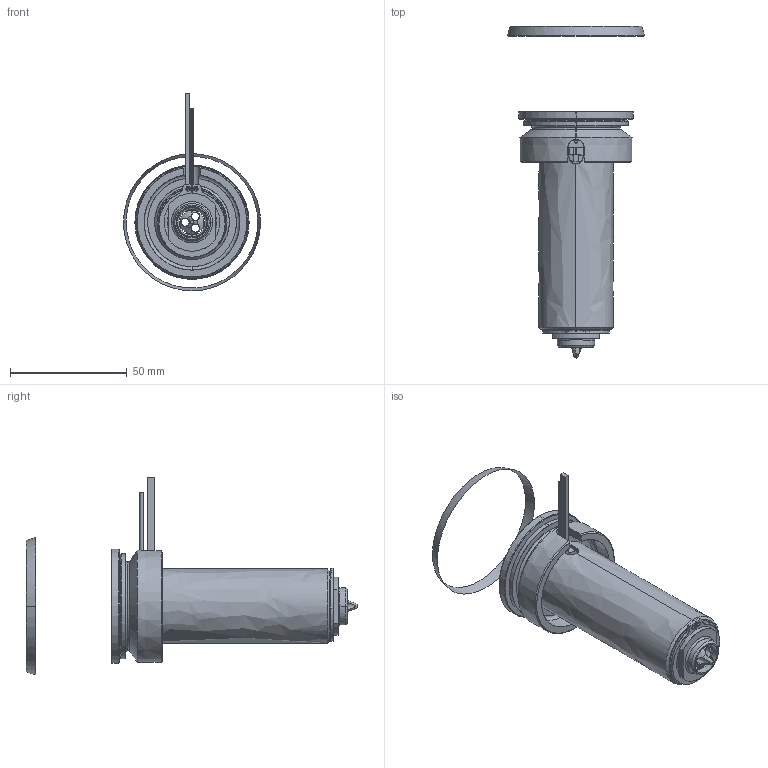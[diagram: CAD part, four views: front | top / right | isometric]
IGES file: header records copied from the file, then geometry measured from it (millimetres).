
Start section: SolidWorks IGES file using analytic representation for surfaces
Global section: file name: C:\Documents and Settings\ws-20\Desktop\TEM\UGEP5002-S-A-1 [Øf-1.36 ØC-12].IGS; native system: SolidWorks 2012; preprocessor: SolidWorks 2012; author: ws-20; date: 120426.100304; units: millimetre
Bounding box: 58.79 x 142.24 x 84.69 mm (x, y, z)
Surface area: 41603 mm2 (no closed solid volume)
Topology: 0 solids, 0 shells, 124 faces, 2404 edges, 2404 vertices
Faces by surface type: revolution 81, bspline 43
